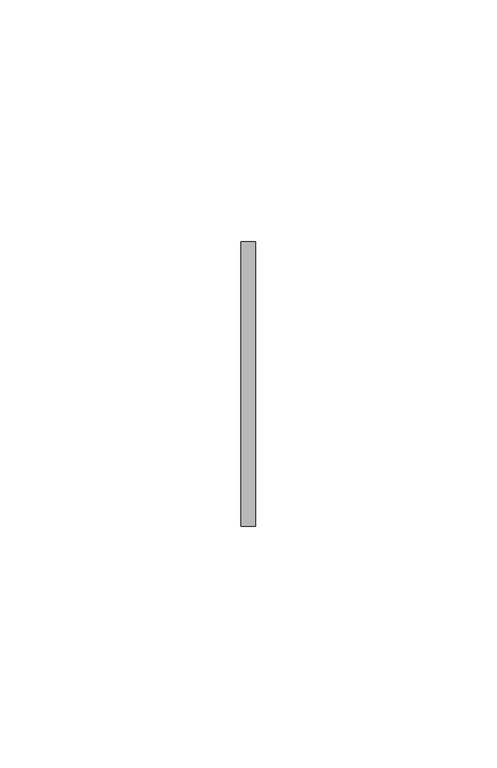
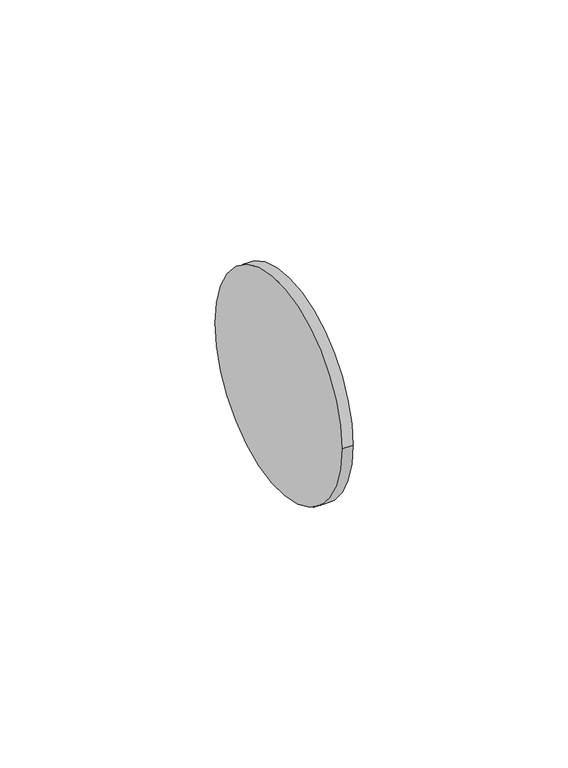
"""IFC4 building model written with IfcOpenShell, lengths in millimetres: pipe fitting geometry, PipeAccessory_GirpiHTA_CPVC_FlatGasketsForFlangeAdaptors : PipeAccessory_GirpiHTA_CPVC_FlatGasketsForFlangeAdaptors."""

from ifc_helpers import new_model, si_unit, point, frame, origin, origin_2d, place, context, project, spatial, circle_curve, trimmed, segment, composite_curve, outline, extrude, source, transform, mapped, element, save


def pipe_fitting_a441c342(model_context):
    return source(origin(), model_context, "Body", "SweptSolid", [
        extrude(outline(composite_curve([segment(trimmed(circle_curve(origin_2d(), 29.5), [point((-29.5, 0.0))], [point((29.5, 0.0))], False, "CARTESIAN"), True, "CONTINUOUS"), segment(trimmed(circle_curve(origin_2d(), 29.5), [point((29.5, 0.0))], [point((-29.5, 0.0))], False, "CARTESIAN"), True, "CONTINUOUS")], self_intersect=False)), frame((-1.5, 0.0, 0.0), z_axis=(1.0, 0.0, 0.0), x_axis=(0.0, 1.0, 0.0)), (0.0, 0.0, 1.0), 3.0),
    ])


if __name__ == "__main__":
    model = new_model("IFC4")
    model_context = context("Model", 3, world=origin())
    ifc_project = project(units=[si_unit("LENGTHUNIT", "METRE", prefix="MILLI")], contexts=[model_context])
    site = spatial("IfcSite", under=ifc_project)
    building = spatial("IfcBuilding", under=site)
    placement = place(None, origin())
    pipe_fitting_shape = pipe_fitting_a441c342(model_context)
    element("IfcPipeFitting", 1, ObjectType="PipeAccessory_GirpiHTA_CPVC_FlatGasketsForFlangeAdaptors : PipeAccessory_GirpiHTA_CPVC_FlatGasketsForFlangeAdaptors", at=placement, inside=building, context=model_context, shape_type="MappedRepresentation", body=[
        mapped(pipe_fitting_shape, transform((0.0, 0.0, 0.0), x_axis=(1.0, 0.0, 0.0), y_axis=(0.0, 1.0, 0.0), z_axis=(0.0, 0.0, 1.0))),
    ])
    save(model, "model.ifc")
